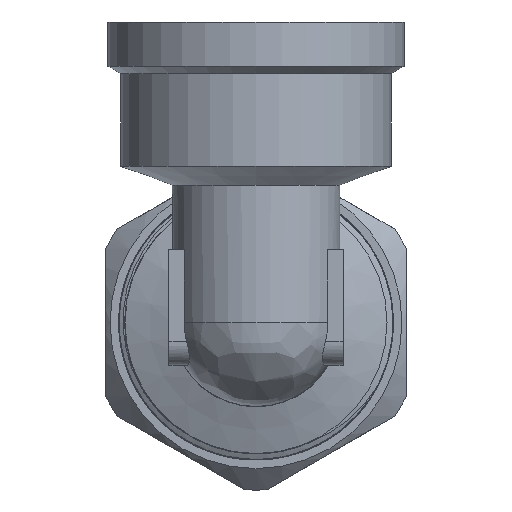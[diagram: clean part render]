
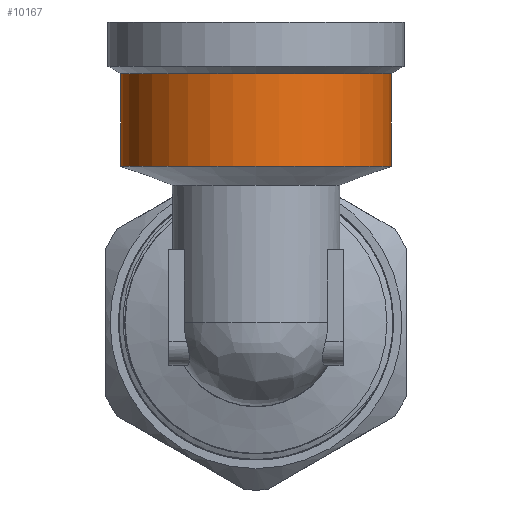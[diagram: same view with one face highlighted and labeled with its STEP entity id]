
A CAD part, front view. The second image highlights one B-rep face of the part: STEP entity #10167.
In plain terms, the highlighted cylindrical face has radius 15.75 mm (diameter 31.5 mm), a full revolution.
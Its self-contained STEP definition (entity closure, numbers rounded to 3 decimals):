
#1281=CYLINDRICAL_SURFACE('',#10864,15.75);
#1384=FACE_OUTER_BOUND('',#1971,.T.);
#1971=EDGE_LOOP('',(#6936,#6937,#6938,#6939,#6940,#6941));
#2612=LINE('',#13348,#3274);
#3274=VECTOR('',#11499,15.75);
#3944=CIRCLE('',#10859,15.75);
#3945=CIRCLE('',#10860,15.75);
#3949=CIRCLE('',#10865,15.75);
#3950=CIRCLE('',#10866,15.75);
#4207=VERTEX_POINT('',#13332);
#4208=VERTEX_POINT('',#13333);
#4212=VERTEX_POINT('',#13344);
#4213=VERTEX_POINT('',#13345);
#5302=EDGE_CURVE('',#4207,#4208,#3944,.T.);
#5303=EDGE_CURVE('',#4208,#4207,#3945,.T.);
#5308=EDGE_CURVE('',#4212,#4213,#3949,.T.);
#5309=EDGE_CURVE('',#4213,#4212,#3950,.T.);
#5310=EDGE_CURVE('',#4213,#4208,#2612,.T.);
#6936=ORIENTED_EDGE('',*,*,#5308,.F.);
#6937=ORIENTED_EDGE('',*,*,#5309,.F.);
#6938=ORIENTED_EDGE('',*,*,#5310,.T.);
#6939=ORIENTED_EDGE('',*,*,#5303,.T.);
#6940=ORIENTED_EDGE('',*,*,#5302,.T.);
#6941=ORIENTED_EDGE('',*,*,#5310,.F.);
#10167=ADVANCED_FACE('',(#1384),#1281,.T.);
#10859=AXIS2_PLACEMENT_3D('',#13334,#11482,#11483);
#10860=AXIS2_PLACEMENT_3D('',#13335,#11484,#11485);
#10864=AXIS2_PLACEMENT_3D('',#13343,#11493,#11494);
#10865=AXIS2_PLACEMENT_3D('',#13346,#11495,#11496);
#10866=AXIS2_PLACEMENT_3D('',#13347,#11497,#11498);
#11482=DIRECTION('center_axis',(0.,0.,1.));
#11483=DIRECTION('ref_axis',(1.,0.,0.));
#11484=DIRECTION('center_axis',(0.,0.,1.));
#11485=DIRECTION('ref_axis',(1.,0.,0.));
#11493=DIRECTION('center_axis',(0.,0.,1.));
#11494=DIRECTION('ref_axis',(0.,-1.,0.));
#11495=DIRECTION('center_axis',(0.,0.,1.));
#11496=DIRECTION('ref_axis',(1.,0.,0.));
#11497=DIRECTION('center_axis',(0.,0.,1.));
#11498=DIRECTION('ref_axis',(1.,0.,0.));
#11499=DIRECTION('',(0.,0.,-1.));
#13332=CARTESIAN_POINT('',(0.,-48.75,18.184));
#13333=CARTESIAN_POINT('',(0.,-17.25,18.184));
#13334=CARTESIAN_POINT('Origin',(0.,-33.,18.184));
#13335=CARTESIAN_POINT('Origin',(0.,-33.,18.184));
#13343=CARTESIAN_POINT('Origin',(0.,-33.,23.592));
#13344=CARTESIAN_POINT('',(0.,-48.75,29.));
#13345=CARTESIAN_POINT('',(0.,-17.25,29.));
#13346=CARTESIAN_POINT('Origin',(0.,-33.,29.));
#13347=CARTESIAN_POINT('Origin',(0.,-33.,29.));
#13348=CARTESIAN_POINT('',(0.,-17.25,23.592));
